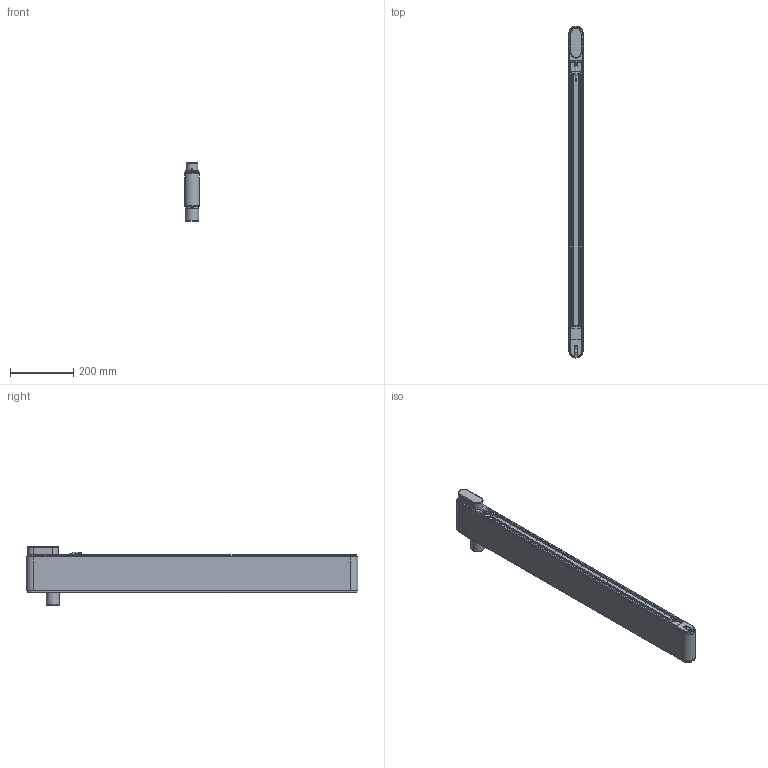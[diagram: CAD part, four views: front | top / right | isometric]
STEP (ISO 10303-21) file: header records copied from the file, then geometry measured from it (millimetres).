
FILE_DESCRIPTION(/* description */ (''),/* implementation_level */ '2;1');
FILE_NAME(/* name */ 'G:\DATEN\CAD\Förderband\Marketing\3D-Modelle (Standard)\FR-40-120-Q\FR-40-120-Q-1000-K (Motorendrohr 40 mm).stp',/* time_stamp */ '2019-05-09T08:35:07+02:00',/* author */ ('melanie.ochs'),/* organization */ (''),/* preprocessor_version */ 'ST-DEVELOPER v17',/* originating_system */ 'Autodesk Inventor 2019',/* authorisation */ '');
FILE_SCHEMA (('CONFIG_CONTROL_DESIGN'));
Length unit declared in the file: millimetre
Products named in the file (1): FR-40-120-Q-1000-K (Motorendrohr 40 mm)
Bounding box: 46.6 x 1046.6 x 185 mm (x, y, z)
Volume: 2225334.3 mm3; surface area: 1311285.1 mm2
Topology: 31 solids, 32 shells, 885 faces, 2399 edges, 1632 vertices
Faces by surface type: plane 443, cylinder 282, cone 69, bspline 61, torus 30
Full cylindrical faces by diameter (mm): 1 x6, 4 x6, 4.3 x4, 4.65 x1, 4.917 x1, 5 x11, 5.5 x8, 6 x2, 6.5 x1, 6.773 x1, 6.917 x2, 8 x7, 8.3 x16, 8.5 x8, 8.773 x1, 10 x1, 11 x1, 12 x3, 25 x2, 28 x4, 40.917 x1, 42 x1, 44 x2
Entity records: 29705 total; most frequent: CARTESIAN_POINT 6255, ORIENTED_EDGE 4762, DIRECTION 4634, EDGE_CURVE 2381, AXIS2_PLACEMENT_3D 1685, VERTEX_POINT 1632, LINE 1264, VECTOR 1264
